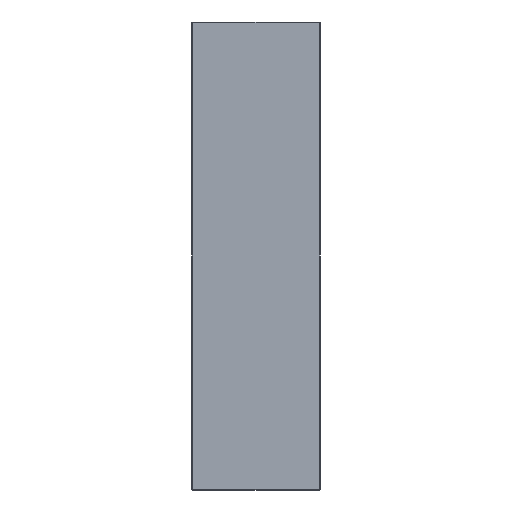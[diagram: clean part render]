
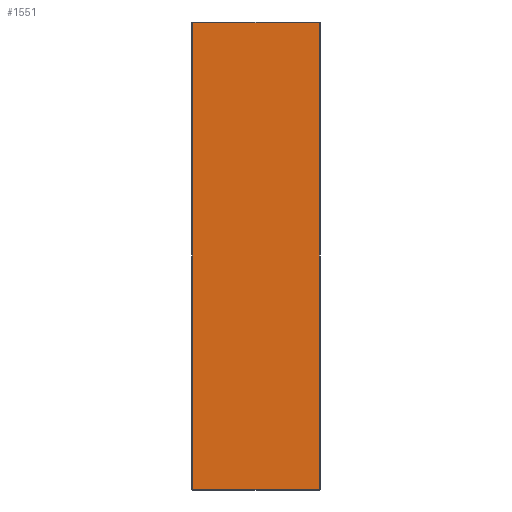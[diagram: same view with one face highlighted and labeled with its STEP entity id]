
A CAD part, left-side view. The second image highlights one B-rep face of the part: STEP entity #1551.
In plain terms, the highlighted planar face has unit normal (-1, 0, 0).
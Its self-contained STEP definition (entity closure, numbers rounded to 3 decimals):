
#1 = CARTESIAN_POINT ( 'NONE',  ( -198., 1., 248. ) ) ;
#76 = EDGE_CURVE ( 'NONE', #1683, #1243, #1773, .T. ) ;
#228 = ORIENTED_EDGE ( 'NONE', *, *, #2113, .T. ) ;
#284 = DIRECTION ( 'NONE',  ( 0., 0., -1. ) ) ;
#286 = FACE_OUTER_BOUND ( 'NONE', #1407, .T. ) ;
#295 = ORIENTED_EDGE ( 'NONE', *, *, #76, .T. ) ;
#309 = VECTOR ( 'NONE', #1959, 1000. ) ;
#336 = VERTEX_POINT ( 'NONE', #1381 ) ;
#344 = EDGE_CURVE ( 'NONE', #336, #1683, #934, .T. ) ;
#360 = VECTOR ( 'NONE', #1314, 1000. ) ;
#468 = DIRECTION ( 'NONE',  ( 1., 0., 0. ) ) ;
#811 = LINE ( 'NONE', #1423, #309 ) ;
#857 = VECTOR ( 'NONE', #2156, 1000. ) ;
#920 = PLANE ( 'NONE',  #1107 ) ;
#934 = LINE ( 'NONE', #1296, #360 ) ;
#971 = CARTESIAN_POINT ( 'NONE',  ( -198., 1., 247. ) ) ;
#1107 = AXIS2_PLACEMENT_3D ( 'NONE', #1751, #468, #284 ) ;
#1113 = DIRECTION ( 'NONE',  ( 0., 0., 1. ) ) ;
#1146 = EDGE_CURVE ( 'NONE', #1243, #2321, #2470, .T. ) ;
#1243 = VERTEX_POINT ( 'NONE', #971 ) ;
#1296 = CARTESIAN_POINT ( 'NONE',  ( -198., 136., -247. ) ) ;
#1314 = DIRECTION ( 'NONE',  ( 0., -1., 0. ) ) ;
#1381 = CARTESIAN_POINT ( 'NONE',  ( -198., 135., -247. ) ) ;
#1407 = EDGE_LOOP ( 'NONE', ( #1533, #228, #1894, #295 ) ) ;
#1423 = CARTESIAN_POINT ( 'NONE',  ( -198., 135., 248. ) ) ;
#1533 = ORIENTED_EDGE ( 'NONE', *, *, #1146, .T. ) ;
#1551 = ADVANCED_FACE ( 'NONE', ( #286 ), #920, .F. ) ;
#1683 = VERTEX_POINT ( 'NONE', #2397 ) ;
#1728 = CARTESIAN_POINT ( 'NONE',  ( -198., 135., 247. ) ) ;
#1751 = CARTESIAN_POINT ( 'NONE',  ( -198., 136., 248. ) ) ;
#1773 = LINE ( 'NONE', #1, #2289 ) ;
#1894 = ORIENTED_EDGE ( 'NONE', *, *, #344, .T. ) ;
#1959 = DIRECTION ( 'NONE',  ( 0., 0., -1. ) ) ;
#2059 = CARTESIAN_POINT ( 'NONE',  ( -198., 136., 247. ) ) ;
#2113 = EDGE_CURVE ( 'NONE', #2321, #336, #811, .T. ) ;
#2156 = DIRECTION ( 'NONE',  ( 0., 1., 0. ) ) ;
#2289 = VECTOR ( 'NONE', #1113, 1000. ) ;
#2321 = VERTEX_POINT ( 'NONE', #1728 ) ;
#2397 = CARTESIAN_POINT ( 'NONE',  ( -198., 1., -247. ) ) ;
#2470 = LINE ( 'NONE', #2059, #857 ) ;
